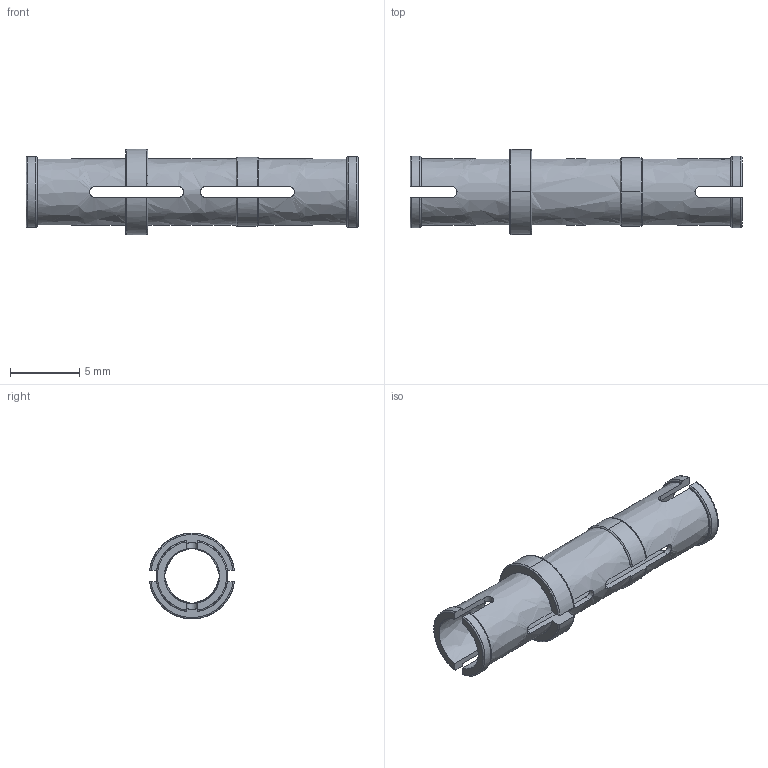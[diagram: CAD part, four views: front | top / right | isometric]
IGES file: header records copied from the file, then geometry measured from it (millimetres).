
Start section: C
Global section: file name: Blue_4514553_MCM.iges; native system: By Siemens PLM Incorporated; preprocessor: XPlus GENERIC/IGES 26.1.183; author: Author; organization: Title; date: 20250721.235007; units: millimetre
Bounding box: 24 x 6.15 x 6.2 mm (x, y, z)
Surface area: 693.4 mm2 (no closed solid volume)
Topology: 0 solids, 0 shells, 76 faces, 774 edges, 774 vertices
Faces by surface type: bspline 76
